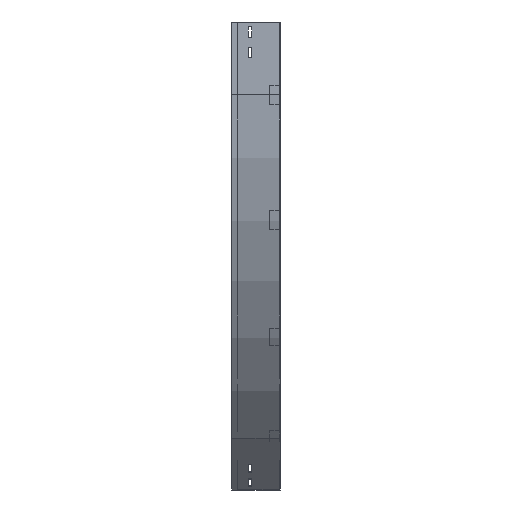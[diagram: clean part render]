
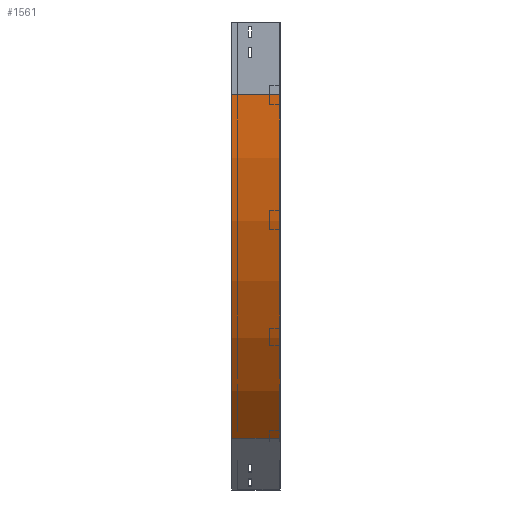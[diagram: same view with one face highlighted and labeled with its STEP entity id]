
A CAD part, left-side view. The second image highlights one B-rep face of the part: STEP entity #1561.
In plain terms, the highlighted cylindrical face has radius 1000 mm (diameter 2000 mm), a partial arc.
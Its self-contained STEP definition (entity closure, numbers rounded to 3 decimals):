
#7 = ORIENTED_EDGE ( 'NONE', *, *, #1216, .T. ) ;
#154 = VECTOR ( 'NONE', #3209, 1000. ) ;
#189 = EDGE_CURVE ( 'NONE', #2296, #1115, #3761, .T. ) ;
#190 = DIRECTION ( 'NONE',  ( 0., -1., 0. ) ) ;
#204 = LINE ( 'NONE', #1060, #2570 ) ;
#452 = DIRECTION ( 'NONE',  ( 0., 0., -1. ) ) ;
#490 = DIRECTION ( 'NONE',  ( 0., -1., 0. ) ) ;
#539 = CARTESIAN_POINT ( 'NONE',  ( 0., 0., -150. ) ) ;
#623 = VERTEX_POINT ( 'NONE', #1993 ) ;
#732 = CIRCLE ( 'NONE', #2783, 1000. ) ;
#860 = CARTESIAN_POINT ( 'NONE',  ( 292.893, 0., -857.107 ) ) ;
#1060 = CARTESIAN_POINT ( 'NONE',  ( 292.893, 0., -857.107 ) ) ;
#1115 = VERTEX_POINT ( 'NONE', #3373 ) ;
#1216 = EDGE_CURVE ( 'NONE', #2296, #623, #1992, .T. ) ;
#1252 = VERTEX_POINT ( 'NONE', #860 ) ;
#1412 = DIRECTION ( 'NONE',  ( -1., 0., 0. ) ) ;
#1561 = ADVANCED_FACE ( 'NONE', ( #3159 ), #3770, .T. ) ;
#1647 = EDGE_CURVE ( 'NONE', #1115, #1252, #732, .T. ) ;
#1724 = CARTESIAN_POINT ( 'NONE',  ( 1000., 0., -150. ) ) ;
#1903 = CARTESIAN_POINT ( 'NONE',  ( 0., 100., -150. ) ) ;
#1992 = CIRCLE ( 'NONE', #2485, 1000. ) ;
#1993 = CARTESIAN_POINT ( 'NONE',  ( 292.893, 100., -857.107 ) ) ;
#2254 = DIRECTION ( 'NONE',  ( -1., 0., 0. ) ) ;
#2295 = CARTESIAN_POINT ( 'NONE',  ( 1000., 100., -150. ) ) ;
#2296 = VERTEX_POINT ( 'NONE', #1903 ) ;
#2485 = AXIS2_PLACEMENT_3D ( 'NONE', #2295, #3774, #1412 ) ;
#2570 = VECTOR ( 'NONE', #3727, 1000. ) ;
#2615 = ORIENTED_EDGE ( 'NONE', *, *, #189, .F. ) ;
#2783 = AXIS2_PLACEMENT_3D ( 'NONE', #3733, #190, #2254 ) ;
#3159 = FACE_OUTER_BOUND ( 'NONE', #3609, .T. ) ;
#3209 = DIRECTION ( 'NONE',  ( 0., -1., 0. ) ) ;
#3234 = EDGE_CURVE ( 'NONE', #623, #1252, #204, .T. ) ;
#3373 = CARTESIAN_POINT ( 'NONE',  ( 0., 0., -150. ) ) ;
#3609 = EDGE_LOOP ( 'NONE', ( #3686, #2615, #7, #3839 ) ) ;
#3686 = ORIENTED_EDGE ( 'NONE', *, *, #1647, .F. ) ;
#3727 = DIRECTION ( 'NONE',  ( 0., -1., 0. ) ) ;
#3733 = CARTESIAN_POINT ( 'NONE',  ( 1000., 0., -150. ) ) ;
#3761 = LINE ( 'NONE', #539, #154 ) ;
#3770 = CYLINDRICAL_SURFACE ( 'NONE', #3852, 1000. ) ;
#3774 = DIRECTION ( 'NONE',  ( 0., -1., 0. ) ) ;
#3839 = ORIENTED_EDGE ( 'NONE', *, *, #3234, .T. ) ;
#3852 = AXIS2_PLACEMENT_3D ( 'NONE', #1724, #490, #452 ) ;
